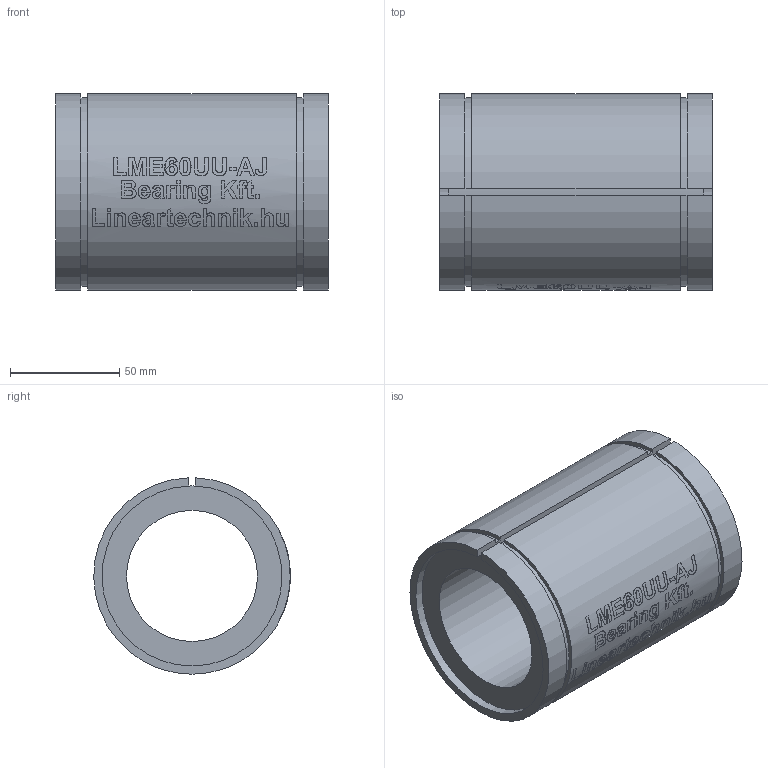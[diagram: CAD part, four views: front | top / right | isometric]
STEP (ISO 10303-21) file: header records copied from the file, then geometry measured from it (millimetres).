
FILE_DESCRIPTION(/* description */ (''),/* implementation_level */ '2;1');
FILE_NAME(/* name */ 'LME60UU-AJ',/* time_stamp */ '2019-07-02T12:06:27+02:00',/* author */ ('VĂ©gh MĂˇtĂ©'),/* organization */ ('Bearing Kft'),/* preprocessor_version */ 'ST-DEVELOPER v16.7',/* originating_system */ 'DEX',/* authorisation */ $);
FILE_SCHEMA (('AUTOMOTIVE_DESIGN {1 0 10303 214 3 1 1}'));
Length unit declared in the file: millimetre
Products named in the file (1): LME60UU-AJ
Bounding box: 125 x 89.99 x 89.97 mm (x, y, z)
Volume: 417198.9 mm3; surface area: 69393.1 mm2
Topology: 1 solids, 3 shells, 340 faces, 861 edges, 575 vertices
Faces by surface type: plane 177, bspline 103, cylinder 60
Full cylindrical faces by diameter (mm): 60 x1
Entity records: 22642 total; most frequent: CARTESIAN_POINT 14997, ORIENTED_EDGE 1704, DIRECTION 1277, EDGE_CURVE 852, VERTEX_POINT 570, LINE 485, VECTOR 485, EDGE_LOOP 398
